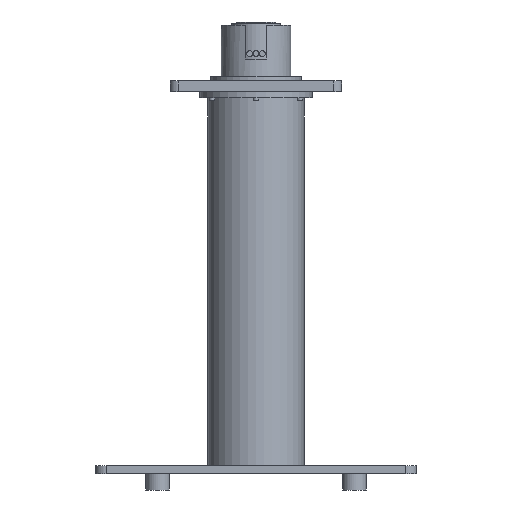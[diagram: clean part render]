
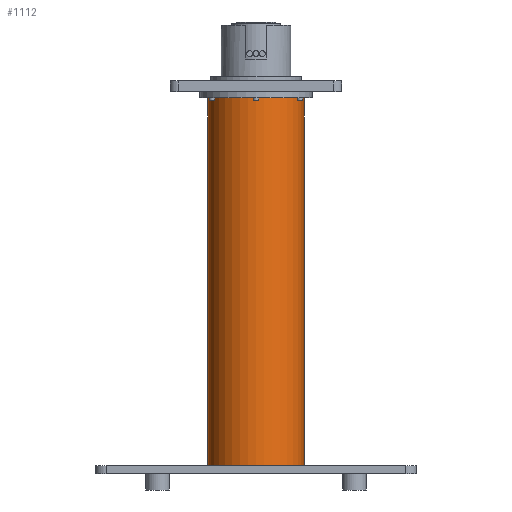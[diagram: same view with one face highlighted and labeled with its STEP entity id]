
A CAD part, front view. The second image highlights one B-rep face of the part: STEP entity #1112.
In plain terms, the highlighted cylindrical face has radius 90 mm (diameter 180 mm), a full revolution.
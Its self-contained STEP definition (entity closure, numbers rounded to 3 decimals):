
#1112 = ADVANCED_FACE('',(#1113),#1126,.T.);
#1113 = FACE_BOUND('',#1114,.T.);
#1114 = EDGE_LOOP('',(#1115,#1149,#1172,#1199));
#1115 = ORIENTED_EDGE('',*,*,#1116,.F.);
#1116 = EDGE_CURVE('',#1117,#1117,#1119,.T.);
#1117 = VERTEX_POINT('',#1118);
#1118 = CARTESIAN_POINT('',(90.,0.,-32.));
#1119 = SURFACE_CURVE('',#1120,(#1125,#1137),.PCURVE_S1.);
#1120 = CIRCLE('',#1121,90.);
#1121 = AXIS2_PLACEMENT_3D('',#1122,#1123,#1124);
#1122 = CARTESIAN_POINT('',(0.,0.,-32.));
#1123 = DIRECTION('',(0.,0.,1.));
#1124 = DIRECTION('',(1.,0.,-0.));
#1125 = PCURVE('',#1126,#1131);
#1126 = CYLINDRICAL_SURFACE('',#1127,90.);
#1127 = AXIS2_PLACEMENT_3D('',#1128,#1129,#1130);
#1128 = CARTESIAN_POINT('',(0.,0.,-720.));
#1129 = DIRECTION('',(0.,0.,1.));
#1130 = DIRECTION('',(1.,0.,-0.));
#1131 = DEFINITIONAL_REPRESENTATION('',(#1132),#1136);
#1132 = LINE('',#1133,#1134);
#1133 = CARTESIAN_POINT('',(0.,688.));
#1134 = VECTOR('',#1135,1.);
#1135 = DIRECTION('',(1.,0.));
#1136 = ( GEOMETRIC_REPRESENTATION_CONTEXT(2) 
PARAMETRIC_REPRESENTATION_CONTEXT() REPRESENTATION_CONTEXT('2D SPACE',''
  ) );
#1137 = PCURVE('',#1138,#1143);
#1138 = PLANE('',#1139);
#1139 = AXIS2_PLACEMENT_3D('',#1140,#1141,#1142);
#1140 = CARTESIAN_POINT('',(0.,0.,-32.));
#1141 = DIRECTION('',(0.,0.,1.));
#1142 = DIRECTION('',(1.,0.,-0.));
#1143 = DEFINITIONAL_REPRESENTATION('',(#1144),#1148);
#1144 = CIRCLE('',#1145,90.);
#1145 = AXIS2_PLACEMENT_2D('',#1146,#1147);
#1146 = CARTESIAN_POINT('',(0.,0.));
#1147 = DIRECTION('',(1.,0.));
#1148 = ( GEOMETRIC_REPRESENTATION_CONTEXT(2) 
PARAMETRIC_REPRESENTATION_CONTEXT() REPRESENTATION_CONTEXT('2D SPACE',''
  ) );
#1149 = ORIENTED_EDGE('',*,*,#1150,.F.);
#1150 = EDGE_CURVE('',#1151,#1117,#1153,.T.);
#1151 = VERTEX_POINT('',#1152);
#1152 = CARTESIAN_POINT('',(90.,0.,-720.));
#1153 = SEAM_CURVE('',#1154,(#1158,#1165),.PCURVE_S1.);
#1154 = LINE('',#1155,#1156);
#1155 = CARTESIAN_POINT('',(90.,0.,-720.));
#1156 = VECTOR('',#1157,1.);
#1157 = DIRECTION('',(0.,0.,1.));
#1158 = PCURVE('',#1126,#1159);
#1159 = DEFINITIONAL_REPRESENTATION('',(#1160),#1164);
#1160 = LINE('',#1161,#1162);
#1161 = CARTESIAN_POINT('',(6.283,-0.));
#1162 = VECTOR('',#1163,1.);
#1163 = DIRECTION('',(0.,1.));
#1164 = ( GEOMETRIC_REPRESENTATION_CONTEXT(2) 
PARAMETRIC_REPRESENTATION_CONTEXT() REPRESENTATION_CONTEXT('2D SPACE',''
  ) );
#1165 = PCURVE('',#1126,#1166);
#1166 = DEFINITIONAL_REPRESENTATION('',(#1167),#1171);
#1167 = LINE('',#1168,#1169);
#1168 = CARTESIAN_POINT('',(0.,-0.));
#1169 = VECTOR('',#1170,1.);
#1170 = DIRECTION('',(0.,1.));
#1171 = ( GEOMETRIC_REPRESENTATION_CONTEXT(2) 
PARAMETRIC_REPRESENTATION_CONTEXT() REPRESENTATION_CONTEXT('2D SPACE',''
  ) );
#1172 = ORIENTED_EDGE('',*,*,#1173,.T.);
#1173 = EDGE_CURVE('',#1151,#1151,#1174,.T.);
#1174 = SURFACE_CURVE('',#1175,(#1180,#1187),.PCURVE_S1.);
#1175 = CIRCLE('',#1176,90.);
#1176 = AXIS2_PLACEMENT_3D('',#1177,#1178,#1179);
#1177 = CARTESIAN_POINT('',(0.,0.,-720.));
#1178 = DIRECTION('',(0.,0.,1.));
#1179 = DIRECTION('',(1.,0.,-0.));
#1180 = PCURVE('',#1126,#1181);
#1181 = DEFINITIONAL_REPRESENTATION('',(#1182),#1186);
#1182 = LINE('',#1183,#1184);
#1183 = CARTESIAN_POINT('',(0.,0.));
#1184 = VECTOR('',#1185,1.);
#1185 = DIRECTION('',(1.,0.));
#1186 = ( GEOMETRIC_REPRESENTATION_CONTEXT(2) 
PARAMETRIC_REPRESENTATION_CONTEXT() REPRESENTATION_CONTEXT('2D SPACE',''
  ) );
#1187 = PCURVE('',#1188,#1193);
#1188 = PLANE('',#1189);
#1189 = AXIS2_PLACEMENT_3D('',#1190,#1191,#1192);
#1190 = CARTESIAN_POINT('',(0.,0.,-720.));
#1191 = DIRECTION('',(0.,0.,1.));
#1192 = DIRECTION('',(1.,0.,-0.));
#1193 = DEFINITIONAL_REPRESENTATION('',(#1194),#1198);
#1194 = CIRCLE('',#1195,90.);
#1195 = AXIS2_PLACEMENT_2D('',#1196,#1197);
#1196 = CARTESIAN_POINT('',(0.,0.));
#1197 = DIRECTION('',(1.,0.));
#1198 = ( GEOMETRIC_REPRESENTATION_CONTEXT(2) 
PARAMETRIC_REPRESENTATION_CONTEXT() REPRESENTATION_CONTEXT('2D SPACE',''
  ) );
#1199 = ORIENTED_EDGE('',*,*,#1150,.T.);
